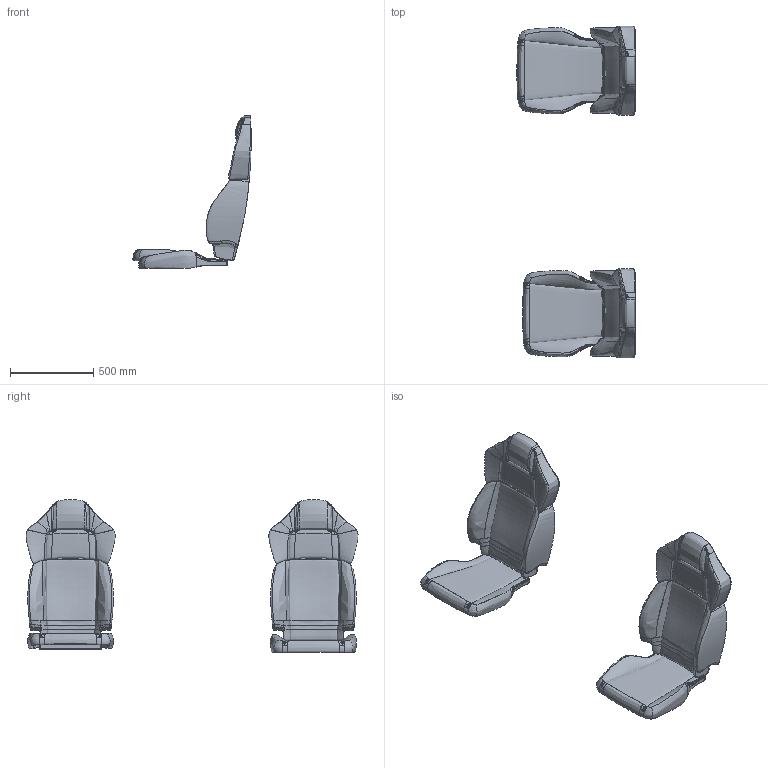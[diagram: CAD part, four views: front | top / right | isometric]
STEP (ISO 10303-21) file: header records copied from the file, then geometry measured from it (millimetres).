
FILE_DESCRIPTION(('CATIA V5 STEP Exchange','CAx-IF Rec.Pracs.--- Model Styling and Organization---1.2---2011-12-15','CAx-IF Rec.Pracs.---Representation and Presentation of Product Manufacturing Information (PMI)---3.3a---2012-01-01'),'2;1');
FILE_NAME('D:\Users\dujiaze\Desktop\J408-seat.stp','2024-10-16T08:53:15+00:00',('none'),('none'),'CATIA Version 5-6 Release 2014 SP4','CATIA V5 STEP AP203 Edition 2','none');
FILE_SCHEMA(('AP203_CONFIGURATION_CONTROLLED_3D_DESIGN_OF_MECHANICAL_PARTS_AND_ASSEMBLIES_MIM_LF { 1 0 10303 403 3 1 4}'));
Products named in the file (1): J408-seat
Bounding box: 710.48 x 1995.63 x 918.4 mm (x, y, z)
Surface area: 3177726.1 mm2 (no closed solid volume)
Topology: 0 solids, 738 shells, 738 faces, 2952 edges, 2954 vertices
Faces by surface type: bspline 738
Entity records: 100726 total; most frequent: CARTESIAN_POINT 83700, EDGE_CURVE 2952, ORIENTED_EDGE 2952, B_SPLINE_CURVE_WITH_KNOTS 2952, VERTEX_POINT 2952, STYLED_ITEM 740, OPEN_SHELL 738, ADVANCED_FACE 738
